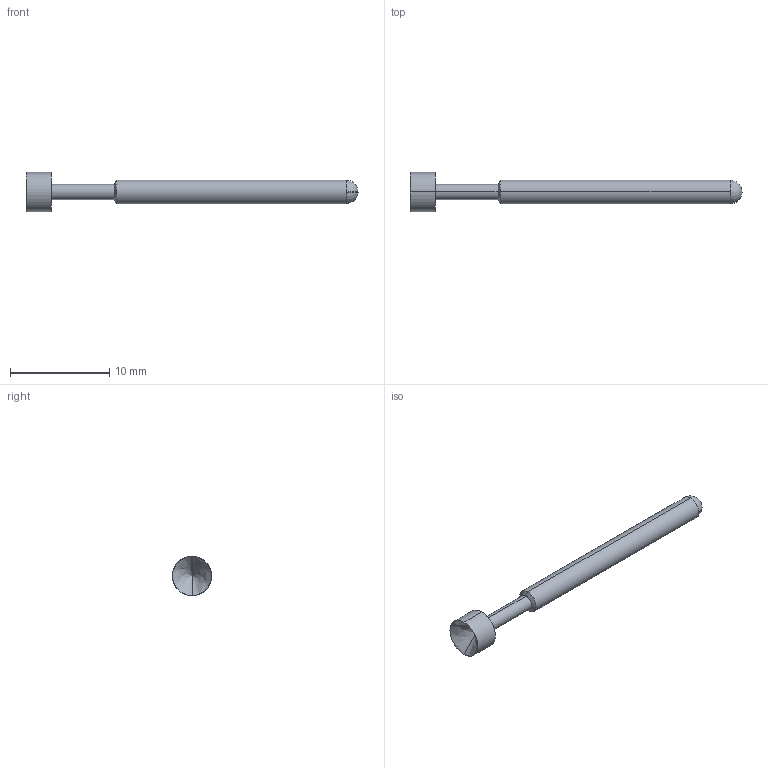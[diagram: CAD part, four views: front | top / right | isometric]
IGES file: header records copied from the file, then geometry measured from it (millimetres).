
Start section: SolidWorks IGES file using analytic representation for surfaces
Global section: file name: Z:\probe solid model mockups\Solidworks models\IGES Files\HCP-14 IGES files\HCP-14A.IGS; native system: SolidWorks 2006 by SolidWorks Corporation; preprocessor: SolidWorks 2006 by SolidWorks Corporation; author: tsakatani; date: 071202.143452; units: inch
Bounding box: 33.53 x 3.96 x 3.96 mm (x, y, z)
Surface area: 274 mm2 (no closed solid volume)
Topology: 0 solids, 0 shells, 13 faces, 100 edges, 96 vertices
Faces by surface type: revolution 12, bspline 1
